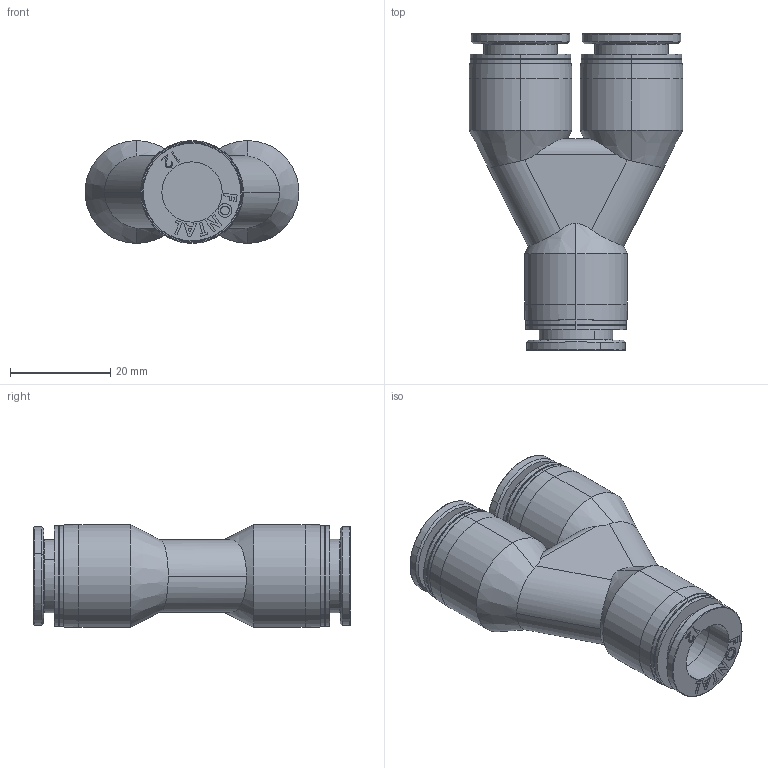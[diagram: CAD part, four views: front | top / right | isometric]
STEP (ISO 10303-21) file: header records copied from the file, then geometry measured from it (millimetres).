
FILE_DESCRIPTION (( 'STEP AP203' ), '1' );
FILE_NAME ('FPY12.STEP', '2016-01-14T21:09:17', ( '' ), ( '' ), 'SwSTEP 2.0', 'SolidWorks 2014', '' );
FILE_SCHEMA (( 'CONFIG_CONTROL_DESIGN' ));
Length unit declared in the file: millimetre
Products named in the file (3): FPY12; FPC12-02-A; FPY12-A
Assembly tree (4 placements, depth 2):
  FPY12
    FPY12-A
    FPC12-02-A  x3
Bounding box: 42.6 x 63.16 x 20.5 mm (x, y, z)
Volume: 18872.5 mm3; surface area: 11119.8 mm2
Topology: 4 solids, 4 shells, 366 faces, 900 edges, 590 vertices
Faces by surface type: plane 231, cylinder 60, bspline 45, cone 18, torus 12
Entity records: 6417 total; most frequent: CARTESIAN_POINT 2128, ORIENTED_EDGE 816, DIRECTION 784, EDGE_CURVE 408, VERTEX_POINT 266, AXIS2_PLACEMENT_3D 266, LINE 252, VECTOR 252
